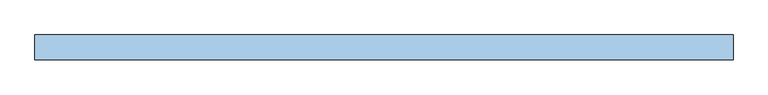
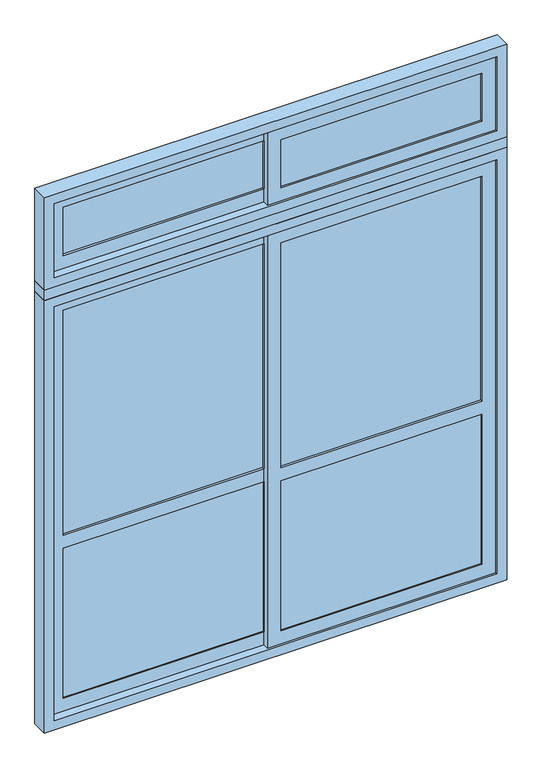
"""IFC4 building model written with IfcOpenShell, lengths in millimetres: window geometry, A7 Ventana_Corrediza_PC_2 hojas : A7.5 Ventana_Corrediza_PC_2 hojas 213x260."""

from ifc_helpers import new_model, si_unit, frame, origin, place, context, project, spatial, polyline, outline, extrude, source, transform, mapped, element, save


def window_3a15e468(model_context):
    return source(origin(), model_context, "Body", "SweptSolid", [
        extrude(outline(polyline([(-31.5, -32.5), (-31.5, -48.5), (-954.5, -48.5), (-954.5, -32.5), (-31.5, -32.5)])), frame((0.0, 0.0, 108.0), z_axis=(0.0, 0.0, 1.0), x_axis=(1.0, 0.0, 0.0)), (0.0, 0.0, 1.0), 728.0),
        extrude(outline(polyline([(954.5, -60.5), (954.5, -76.5), (31.5, -76.5), (31.5, -60.5), (954.5, -60.5)])), frame((0.0, 0.0, 108.0), z_axis=(0.0, 0.0, 1.0), x_axis=(1.0, 0.0, 0.0)), (0.0, 0.0, 1.0), 728.0),
        extrude(outline(polyline([(-31.5, -36.0769719), (-31.5, -44.9230281), (-954.5, -44.9230281), (-954.5, -36.0769719), (-31.5, -36.0769719)])), frame((0.0, 0.0, 2258.0), z_axis=(0.0, 0.0, 1.0), x_axis=(1.0, 0.0, 0.0)), (0.0, 0.0, 1.0), 234.0),
        extrude(outline(polyline([(-31.5, -36.0769719), (-31.5, -44.9230281), (-954.5, -44.9230281), (-954.5, -36.0769719), (-31.5, -36.0769719)])), frame((0.0, 0.0, 900.0), z_axis=(0.0, 0.0, 1.0), x_axis=(1.0, 0.0, 0.0)), (0.0, 0.0, 1.0), 1092.0),
        extrude(outline(polyline([(954.5, -64.0769719), (954.5, -72.9230281), (31.5, -72.9230281), (31.5, -64.0769719), (954.5, -64.0769719)])), frame((0.0, 0.0, 2258.0), z_axis=(0.0, 0.0, 1.0), x_axis=(1.0, 0.0, 0.0)), (0.0, 0.0, 1.0), 234.0),
        extrude(outline(polyline([(954.5, -64.0769719), (954.5, -72.9230281), (31.5, -72.9230281), (31.5, -64.0769719), (954.5, -64.0769719)])), frame((0.0, 0.0, 900.0), z_axis=(0.0, 0.0, 1.0), x_axis=(1.0, 0.0, 0.0)), (0.0, 0.0, 1.0), 1092.0),
        extrude(outline(polyline([(45.0, -1017.5), (45.0, 31.5), (2055.0, 31.5), (2055.0, -1017.5), (45.0, -1017.5)]), holes=[polyline([(900.0, -954.5), (1992.0, -954.5), (1992.0, -31.5), (900.0, -31.5), (900.0, -954.5)]), polyline([(108.0, -954.5), (836.0, -954.5), (836.0, -31.5), (108.0, -31.5), (108.0, -954.5)])]), frame((0.0, -54.5, 0.0), z_axis=(0.0, 1.0, 0.0), x_axis=(0.0, 0.0, 1.0)), (0.0, 0.0, 1.0), 28.0),
        extrude(outline(polyline([(2555.0, -1017.5), (2195.0, -1017.5), (2195.0, 31.5), (2555.0, 31.5), (2555.0, -1017.5)]), holes=[polyline([(2258.0, -954.5), (2492.0, -954.5), (2492.0, -31.5), (2258.0, -31.5), (2258.0, -954.5)])]), frame((0.0, -54.5, 0.0), z_axis=(0.0, 1.0, 0.0), x_axis=(0.0, 0.0, 1.0)), (0.0, 0.0, 1.0), 28.0),
        extrude(outline(polyline([(2055.0, 1017.5), (2055.0, -31.5), (45.0, -31.5), (45.0, 1017.5), (2055.0, 1017.5)]), holes=[polyline([(1992.0, 31.5), (1992.0, 954.5), (900.0, 954.5), (900.0, 31.5), (1992.0, 31.5)]), polyline([(836.0, 31.5), (836.0, 954.5), (108.0, 954.5), (108.0, 31.5), (836.0, 31.5)])]), frame((0.0, -82.5, 0.0), z_axis=(0.0, 1.0, 0.0), x_axis=(0.0, 0.0, 1.0)), (0.0, 0.0, 1.0), 28.0),
        extrude(outline(polyline([(2195.0, -31.5), (2195.0, 1017.5), (2555.0, 1017.5), (2555.0, -31.5), (2195.0, -31.5)]), holes=[polyline([(2492.0, 31.5), (2492.0, 954.5), (2258.0, 954.5), (2258.0, 31.5), (2492.0, 31.5)])]), frame((0.0, -82.5, 0.0), z_axis=(0.0, 1.0, 0.0), x_axis=(0.0, 0.0, 1.0)), (0.0, 0.0, 1.0), 28.0),
        extrude(outline(polyline([(2100.0, -1062.5), (0.0, -1062.5), (0.0, 1062.5), (2100.0, 1062.5), (2100.0, -1062.5)]), holes=[polyline([(2055.0, -1017.5), (2055.0, 1017.5), (45.0, 1017.5), (45.0, -1017.5), (2055.0, -1017.5)])]), frame((0.0, -92.0, 0.0), z_axis=(0.0, 1.0, 0.0), x_axis=(0.0, 0.0, 1.0)), (0.0, 0.0, 1.0), 75.0),
        extrude(outline(polyline([(2600.0, -1062.5), (2150.0, -1062.5), (2150.0, 1062.5), (2600.0, 1062.5), (2600.0, -1062.5)]), holes=[polyline([(2555.0, -1017.5), (2555.0, 1017.5), (2195.0, 1017.5), (2195.0, -1017.5), (2555.0, -1017.5)])]), frame((0.0, -92.0, 0.0), z_axis=(0.0, 1.0, 0.0), x_axis=(0.0, 0.0, 1.0)), (0.0, 0.0, 1.0), 75.0),
        extrude(outline(polyline([(1062.5, -17.0), (1062.5, -92.0), (-1062.5, -92.0), (-1062.5, -17.0), (1062.5, -17.0)])), frame((0.0, 0.0, 2100.0), z_axis=(0.0, 0.0, 1.0), x_axis=(1.0, 0.0, 0.0)), (0.0, 0.0, 1.0), 50.0),
    ])


if __name__ == "__main__":
    model = new_model("IFC4")
    model_context = context("Model", 3, world=origin())
    ifc_project = project(units=[si_unit("LENGTHUNIT", "METRE", prefix="MILLI")], contexts=[model_context])
    site = spatial("IfcSite", under=ifc_project)
    building = spatial("IfcBuilding", under=site)
    placement = place(None, origin())
    window_shape = window_3a15e468(model_context)
    element("IfcWindow", 1, ObjectType="A7 Ventana_Corrediza_PC_2 hojas : A7.5 Ventana_Corrediza_PC_2 hojas 213x260", at=placement, inside=building, context=model_context, shape_type="MappedRepresentation", body=[
        mapped(window_shape, transform((0.0, 0.0, 0.0), x_axis=(1.0, 0.0, 0.0), y_axis=(0.0, 1.0, 0.0), z_axis=(0.0, 0.0, 1.0))),
    ])
    save(model, "model.ifc")
